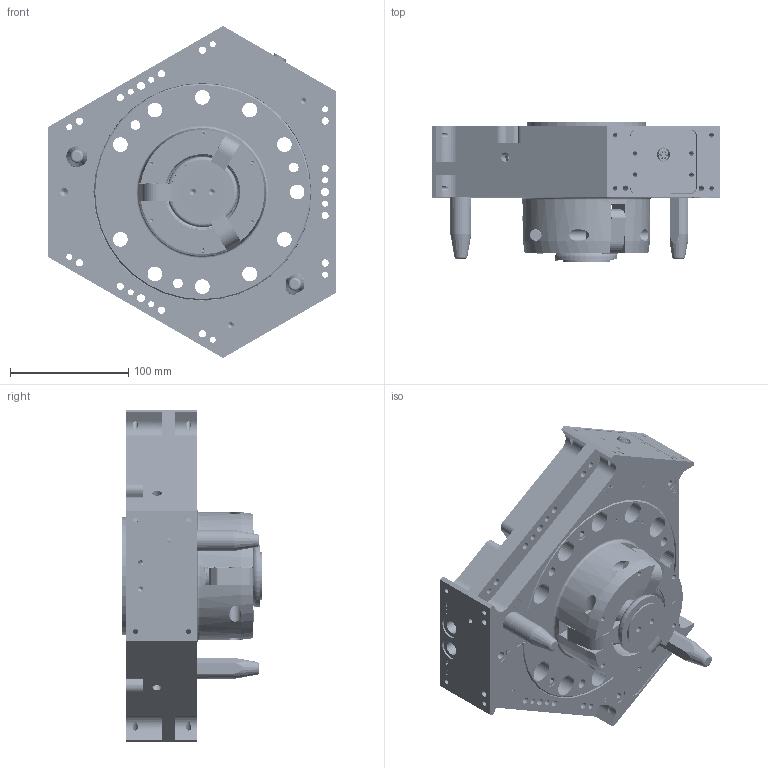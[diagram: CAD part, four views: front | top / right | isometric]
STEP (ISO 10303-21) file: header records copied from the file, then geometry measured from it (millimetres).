
FILE_DESCRIPTION (( 'STEP AP214' ), '1' );
FILE_NAME ('1500-D10A REV01.STEP', '2019-02-27T12:31:12', ( 'Any Employee' ), ( 'Applied Robotics Inc.' ), 'SwSTEP 2.0', 'SolidWorks 2019', '' );
FILE_SCHEMA (( 'AUTOMOTIVE_DESIGN' ));
Length unit declared in the file: millimetre
Products named in the file (73): 49045_DIN 912 M8 x 20 --- 20N; 1407-P56N; 95505-P1087; 1500-D13N; 85943-P1021; 1405-P90N; 1700444P; 1211-P34N; 0105-B64N; 1800402P_91217A170; 1407-P40N; 1800705P; 1405-P91N; 1500-C07N; 0308-B63N; 99501-B1042; 1407-P41N; 1304-P44N; 96504-P1019; 1507-P79N; 0201-B68N; 1407-P54N; 1406-D82A; 49024; 99508-P1022; 91500-P1038; 1500-E11N; 1700442P; 87515-P2047; 0105-C60N; 0105-P65N; 1405-P92N; 1407-P43N; 0002-P28N; 49438; 1104-C31N; 48427; 1407-P42N; 1800706P; 49497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
Assembly tree (157 placements, depth 5):
  1500-D10A REV01
    1500-E11N
    1500-D05A
      1500-D06N
      1501-C87A
        1406-D82A
          1405-P90N
          1405-P92N
          1405-P93N
          1407-P40N  x2
          1407-P42N  x2
          1405-P95N  x4
          1407-P41N  x2
          1407-P53N  x3
          1407-P55N  x2
          1407-P54N  x3
          1407-P39N  x2
          1407-P56N
          1700442P  x6
          1407-P57N
          1700444P  x2
          1407-P43N  x4
          1800707P  x2
          1800705P  x2
          1800706P  x2
          1304-P35N  x2
          1304-P44N
          1304-P45N
          1304-P33N  x2
        1800708A
          1406-C84N
          95505-P1087  x6
          87515-P2047  x6
          1211-P35N
          1211-P34N
          0002-P28N  x4
        1405-P91N  x2
        49497  x4
        49438  x2
      1500-C07N
      1406-C49N
      0601-P65N  x4
      96504-P1019  x4
      48020  x4
      88503-P1084  x4
      49024  x6
      49438  x6
    1500-D12A_UNCOUPLED
      1500-D13N
      0105-C60N
      1104-C30A
        0105-B63N
        0105-B64N
        1104-C31N
        0308-P54N
        0308-B63N
      0107-C52N  x3
      1507-P79N  x3
      0201-P17N
      0810-P34N
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Bounding box: 242.93 x 118.81 x 280.51 mm (x, y, z)
Volume: 2506033.2 mm3; surface area: 531931 mm2
Topology: 173 solids, 173 shells, 6809 faces, 17253 edges, 11364 vertices
Faces by surface type: plane 4590, cylinder 1009, bspline 894, cone 234, torus 80, sphere 2
Full cylindrical faces by diameter (mm): 0.61 x35, 0.762 x4, 0.8 x3, 0.889 x6, 0.98 x6, 1.016 x12, 1.15 x6, 1.17 x6, 1.27 x5, 1.37 x12, 1.5 x4, 1.549 x6, 1.6 x18, 1.605 x6, 1.68 x6, 1.7 x6, 1.81 x6, 1.96 x6, 1.981 x2, 2 x2, 2.3 x4, 2.34 x4, 2.35 x4, 2.5 x4, 3 x25, 3.2 x4, 3.3 x16, 3.5 x6, 3.53 x8, 3.986 x6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
Entity records: 178609 total; most frequent: CARTESIAN_POINT 66653, ORIENTED_EDGE 20696, DIRECTION 17884, EDGE_CURVE 10348, LINE 7622, VECTOR 7622, VERTEX_POINT 7131, EDGE_LOOP 5727
